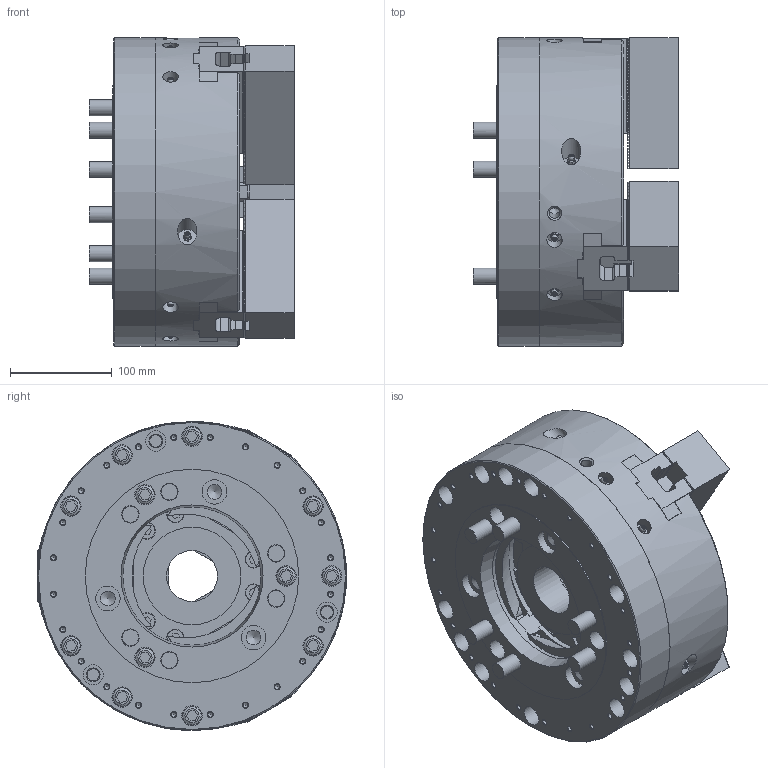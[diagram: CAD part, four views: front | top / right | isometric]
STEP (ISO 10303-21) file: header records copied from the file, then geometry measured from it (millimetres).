
FILE_DESCRIPTION (( 'STEP AP214' ), '1' );
FILE_NAME ('HOH-12K_UC.STEP', '2020-03-06T06:49:49', ( '' ), ( '' ), 'SwSTEP 2.0', 'SolidWorks 2017', '' );
FILE_SCHEMA (( 'AUTOMOTIVE_DESIGN' ));
Length unit declared in the file: millimetre
Products named in the file (18): 俛傾僫僣僉 M14x4514x45; P32257_SOFT JAW; Part2^61P211893_HOH-12K_ASSY1_蹬怮椔; 61P413885_TNUT; 俛傾僫僣僉 M14x4514x45_B迸路 M14X4514X45; P32257_SOFT JAW_蹬怮椔; Part2^61P211893_HOH-12K_ASSY1; HOH-12K_UC; 61P413885_TNUT_蹬怮椔
Assembly tree (13 placements, depth 2):
  俛傾僫僣僉 M14x4514x45
  P32257_SOFT JAW
  俛傾僫僣僉 M14x4514x45
  P32257_SOFT JAW
  61P413885_TNUT
Bounding box: 202.2 x 304 x 304 mm (x, y, z)
Volume: 8784080.5 mm3; surface area: 648906.3 mm2
Topology: 13 solids, 19 shells, 4077 faces, 11653 edges, 7740 vertices
Faces by surface type: plane 3656, cylinder 270, cone 115, sphere 18, torus 18
Full cylindrical faces by diameter (mm): 1.9 x9, 5 x24, 10 x3, 10.5 x2, 11 x3, 12 x3, 12.5 x6, 14 x12, 15 x12, 16 x18, 17 x18, 18 x12, 19 x3, 20 x15, 21 x6, 22 x6, 24 x6, 24.2 x3, 25 x6, 50 x1, 78 x2, 82.35 x1, 89 x1, 96 x1, 136 x1, 210 x1, 304 x2
Entity records: 91249 total; most frequent: CARTESIAN_POINT 17941, ORIENTED_EDGE 15422, DIRECTION 14124, EDGE_CURVE 7711, LINE 6794, VECTOR 6794, VERTEX_POINT 5240, AXIS2_PLACEMENT_3D 3665
